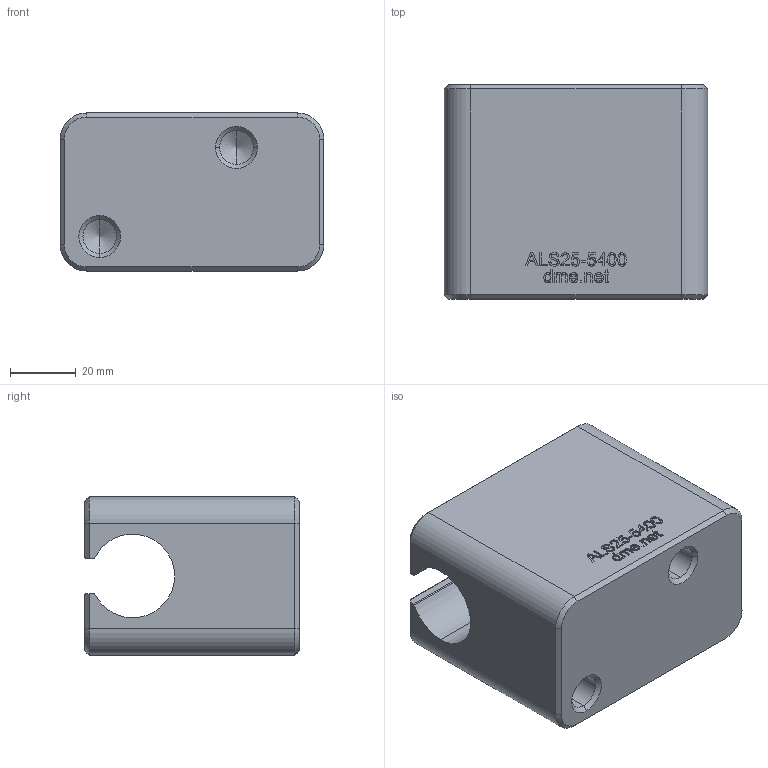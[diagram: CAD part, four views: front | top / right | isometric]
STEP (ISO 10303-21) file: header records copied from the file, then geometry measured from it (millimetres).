
FILE_DESCRIPTION (( 'STEP AP203' ), '1' );
FILE_NAME ('ALS25-5400.STEP', '2021-01-11T16:20:26', ( '' ), ( '' ), 'SwSTEP 2.0', 'SolidWorks 2020', '' );
FILE_SCHEMA (( 'CONFIG_CONTROL_DESIGN' ));
Length unit declared in the file: millimetre
Products named in the file (1): ALS25-5400
Bounding box: 80 x 65 x 48 mm (x, y, z)
Volume: 199910 mm3; surface area: 28248.1 mm2
Topology: 1 solids, 1 shells, 283 faces, 749 edges, 490 vertices
Faces by surface type: plane 144, bspline 108, cone 16, cylinder 15
Entity records: 14520 total; most frequent: CARTESIAN_POINT 8172, ORIENTED_EDGE 1490, DIRECTION 915, EDGE_CURVE 745, VERTEX_POINT 490, LINE 483, VECTOR 483, EDGE_LOOP 309
